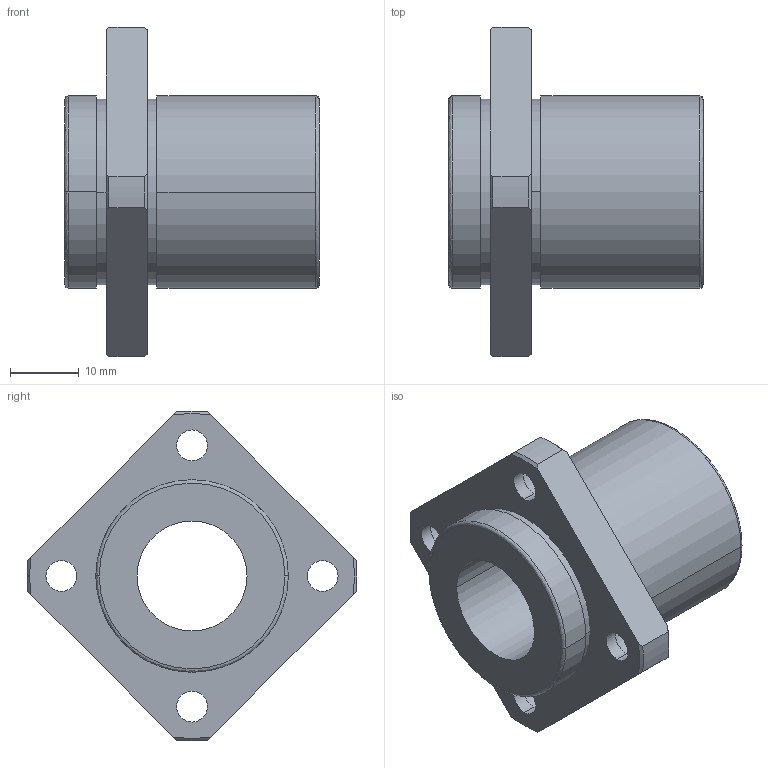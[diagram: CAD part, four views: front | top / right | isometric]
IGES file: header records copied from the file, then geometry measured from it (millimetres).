
Start section: 3D InterOp IGES (Version 21 0 1), Spatial Corp. Copyright (c) 1999-2007.
Global section: file name: NFIS-16VUU.igs; native system: Spatial Corp.; preprocessor: 3D InterOp GENERIC/IGES 3.0; author: Noname; organization: Noname; date: 20220308.112316; units: millimetre
Bounding box: 37 x 47.99 x 47.98 mm (x, y, z)
Surface area: 8209.7 mm2 (no closed solid volume)
Topology: 0 solids, 0 shells, 59 faces, 286 edges, 286 vertices
Faces by surface type: revolution 45, extrusion 14
